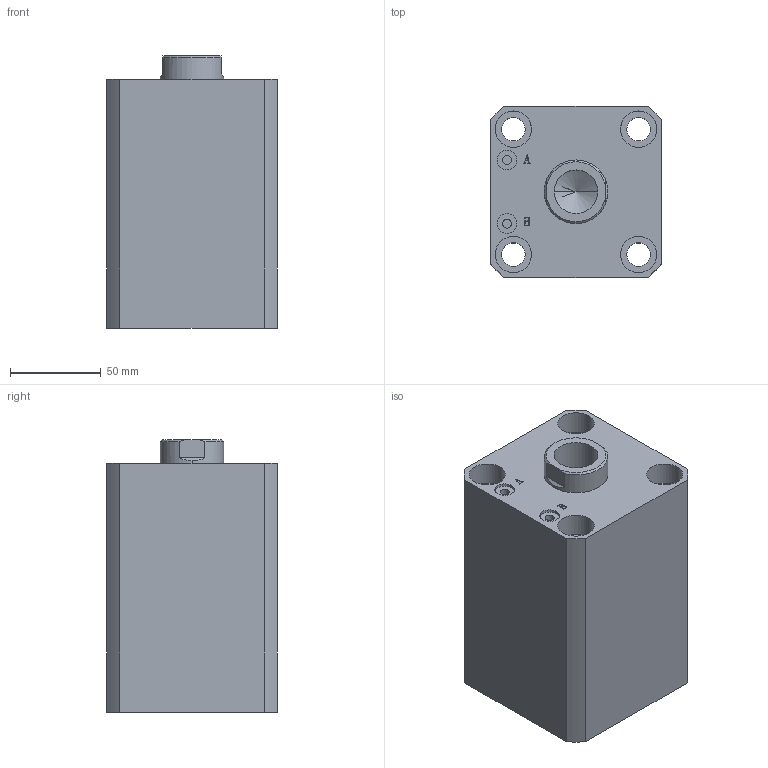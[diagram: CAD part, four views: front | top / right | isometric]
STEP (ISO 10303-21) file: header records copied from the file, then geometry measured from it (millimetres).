
FILE_DESCRIPTION (( 'STEP AP203' ), '1' );
FILE_NAME ('HTB-SDMA63-70N.STEP', '2019-10-08T01:11:29', ( '微软用户' ), ( '微软中国' ), 'SwSTEP 2.0', 'SolidWorks 2012', '' );
FILE_SCHEMA (( 'CONFIG_CONTROL_DESIGN' ));
Length unit declared in the file: millimetre
Products named in the file (3): HTB-SDMA63-70N; HTB-SDMA63-70N活塞杆; HTB-SDMA63-70掛极
Assembly tree (2 placements, depth 2):
  HTB-SDMA63-70N
    HTB-SDMA63-70掛极
    HTB-SDMA63-70N活塞杆
Bounding box: 94 x 94 x 150 mm (x, y, z)
Volume: 946981.9 mm3; surface area: 141534.3 mm2
Topology: 2 solids, 2 shells, 137 faces, 331 edges, 217 vertices
Faces by surface type: plane 65, cylinder 46, bspline 16, torus 6, cone 4
Entity records: 5070 total; most frequent: CARTESIAN_POINT 1576, ORIENTED_EDGE 658, DIRECTION 647, EDGE_CURVE 329, AXIS2_PLACEMENT_3D 232, VERTEX_POINT 217, LINE 183, VECTOR 183
